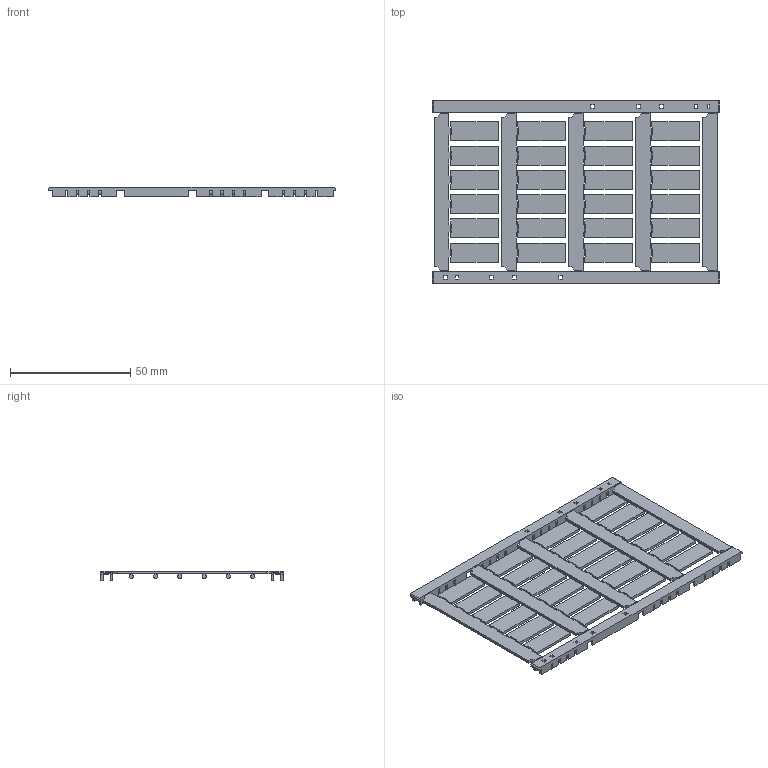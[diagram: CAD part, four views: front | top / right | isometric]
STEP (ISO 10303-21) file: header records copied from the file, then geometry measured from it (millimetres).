
FILE_DESCRIPTION((''),'2;1');
FILE_NAME('JIHAOBAN_DA_ASM','2017-12-14T',('Administrator'),(''),'PRO/ENGINEER BY PARAMETRIC TECHNOLOGY CORPORATION, 2010040','PRO/ENGINEER BY PARAMETRIC TECHNOLOGY CORPORATION, 2010040','');
FILE_SCHEMA(('AUTOMOTIVE_DESIGN_CC2 { 1 2 10303 214 -1 1 5 2 }'));
Length unit declared in the file: millimetre
Products named in the file (3): KUANGJIA_DA; JIHAOBAN_DA; JIHAOBAN_DA_ASM
Assembly tree (25 placements, depth 2):
  JIHAOBAN_DA_ASM
    KUANGJIA_DA
    JIHAOBAN_DA  x24
Bounding box: 119.25 x 75.8 x 4 mm (x, y, z)
Volume: 10277.8 mm3; surface area: 21152.3 mm2
Topology: 25 solids, 25 shells, 896 faces, 2460 edges, 1640 vertices
Faces by surface type: plane 872, cylinder 24
Entity records: 23262 total; most frequent: CARTESIAN_POINT 3299, ORIENTED_EDGE 3264, DIRECTION 2792, PRESENTATION_STYLE_ASSIGNMENT 1634, STYLED_ITEM 1634, CURVE_STYLE 1632, EDGE_CURVE 1632, VECTOR 1630
